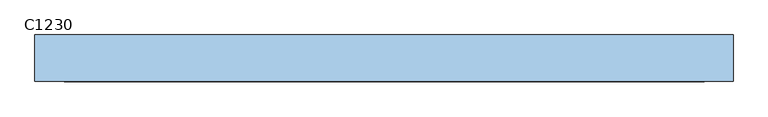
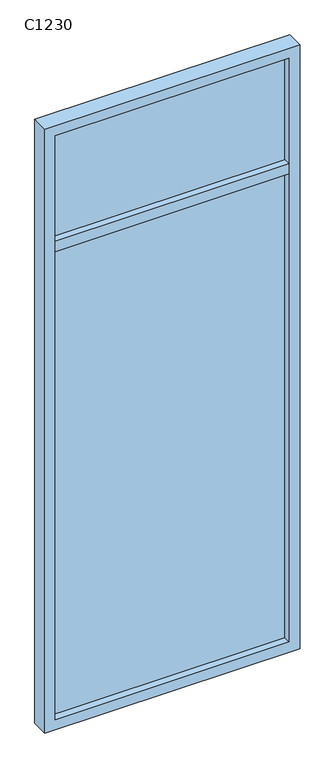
"""IFC4 building model written with IfcOpenShell, lengths in millimetres: window geometry, 双层单列 : C1230."""

from ifc_helpers import new_model, si_unit, frame, origin, place, context, project, spatial, polyline, outline, extrude, source, transform, mapped, element, save


def c1230_67e573e4(model_context):
    return source(origin(), model_context, "Body", "SweptSolid", [
        extrude(outline(polyline([(550.0, -10.0), (-550.0, -10.0), (-550.0, 0.0), (550.0, 0.0), (550.0, -10.0)])), frame((0.0, 0.0, 3325.0), z_axis=(0.0, 0.0, 1.0), x_axis=(1.0, 0.0, 0.0)), (0.0, 0.0, 1.0), 525.0),
        extrude(outline(polyline([(550.0, -10.0), (-550.0, -10.0), (-550.0, 0.0), (550.0, 0.0), (550.0, -10.0)])), frame((0.0, 0.0, 950.0), z_axis=(0.0, 0.0, 1.0), x_axis=(1.0, 0.0, 0.0)), (0.0, 0.0, 1.0), 2325.0),
        extrude(outline(polyline([(-550.0, 35.0), (550.0, 35.0), (550.0, -45.0), (-550.0, -45.0), (-550.0, 35.0)])), frame((0.0, 0.0, 3275.0), z_axis=(0.0, 0.0, 1.0), x_axis=(1.0, 0.0, 0.0)), (0.0, 0.0, 1.0), 50.0),
        extrude(outline(polyline([(3900.0, -600.0), (900.0, -600.0), (900.0, 600.0), (3900.0, 600.0), (3900.0, -600.0)]), holes=[polyline([(3850.0, 550.0), (950.0, 550.0), (950.0, -550.0), (3850.0, -550.0), (3850.0, 550.0)])]), frame((0.0, -45.0, 0.0), z_axis=(0.0, 1.0, 0.0), x_axis=(0.0, 0.0, 1.0)), (0.0, 0.0, 1.0), 80.0),
    ])


if __name__ == "__main__":
    model = new_model("IFC4")
    model_context = context("Model", 3, world=origin())
    ifc_project = project(units=[si_unit("LENGTHUNIT", "METRE", prefix="MILLI")], contexts=[model_context])
    site = spatial("IfcSite", under=ifc_project)
    building = spatial("IfcBuilding", under=site)
    placement = place(None, origin())
    c1230_shape = c1230_67e573e4(model_context)
    element("IfcWindow", 1, ObjectType="双层单列 : C1230", at=placement, inside=building, context=model_context, shape_type="MappedRepresentation", body=[
        mapped(c1230_shape, transform((0.0, 0.0, 0.0), x_axis=(1.0, 0.0, 0.0), y_axis=(0.0, 1.0, 0.0), z_axis=(0.0, 0.0, 1.0))),
    ])
    save(model, "model.ifc")
